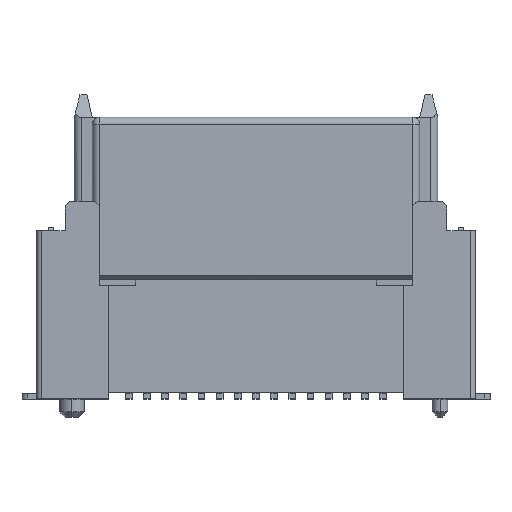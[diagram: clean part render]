
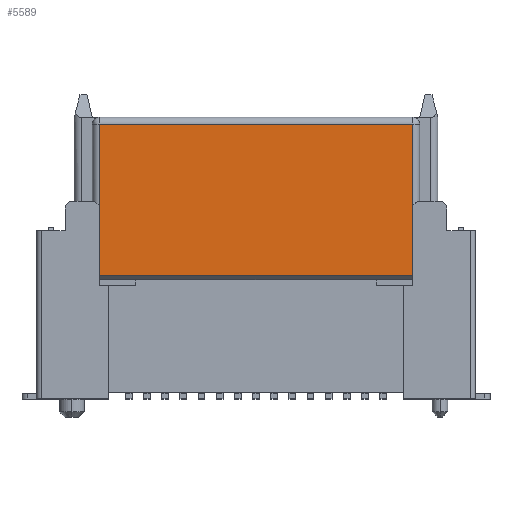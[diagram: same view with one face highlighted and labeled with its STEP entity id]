
A CAD part, top view. The second image highlights one B-rep face of the part: STEP entity #5589.
In plain terms, the highlighted planar face has unit normal (0, 0, 1).
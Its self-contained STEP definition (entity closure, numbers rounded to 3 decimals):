
#124 = EDGE_LOOP ( 'NONE', ( #4717, #20864, #11987, #11092, #15974, #9423 ) ) ;
#425 = CARTESIAN_POINT ( 'NONE',  ( 6.9, 8.5, 2.23 ) ) ;
#1595 = EDGE_CURVE ( 'NONE', #20576, #3547, #20834, .T. ) ;
#2009 = DIRECTION ( 'NONE',  ( 0., 0., -1. ) ) ;
#2795 = VECTOR ( 'NONE', #12211, 1000. ) ;
#3079 = AXIS2_PLACEMENT_3D ( 'NONE', #7136, #2009, #10785 ) ;
#3392 = VECTOR ( 'NONE', #19918, 1000. ) ;
#3547 = VERTEX_POINT ( 'NONE', #6348 ) ;
#3591 = LINE ( 'NONE', #18946, #13223 ) ;
#3866 = CARTESIAN_POINT ( 'NONE',  ( 6.9, 12.1, 2.23 ) ) ;
#3981 = EDGE_CURVE ( 'NONE', #3547, #8904, #12699, .T. ) ;
#4055 = CARTESIAN_POINT ( 'NONE',  ( -6.9, 8.7, 2.23 ) ) ;
#4108 = CARTESIAN_POINT ( 'NONE',  ( 6.9, 5.452, 2.23 ) ) ;
#4308 = EDGE_CURVE ( 'NONE', #21822, #13692, #3591, .T. ) ;
#4353 = CARTESIAN_POINT ( 'NONE',  ( -13.576, 12.1, 2.23 ) ) ;
#4717 = ORIENTED_EDGE ( 'NONE', *, *, #1595, .T. ) ;
#5589 = ADVANCED_FACE ( 'NONE', ( #15388 ), #21248, .F. ) ;
#6348 = CARTESIAN_POINT ( 'NONE',  ( -6.9, 5.452, 2.23 ) ) ;
#6449 = LINE ( 'NONE', #4353, #10344 ) ;
#7136 = CARTESIAN_POINT ( 'NONE',  ( -13.576, 8.7, 2.23 ) ) ;
#7796 = CARTESIAN_POINT ( 'NONE',  ( -6.9, 12.1, 2.23 ) ) ;
#7866 = VERTEX_POINT ( 'NONE', #7796 ) ;
#8365 = CARTESIAN_POINT ( 'NONE',  ( -6.9, 8.7, 2.23 ) ) ;
#8904 = VERTEX_POINT ( 'NONE', #4108 ) ;
#9423 = ORIENTED_EDGE ( 'NONE', *, *, #19482, .T. ) ;
#10344 = VECTOR ( 'NONE', #18515, 1000. ) ;
#10596 = DIRECTION ( 'NONE',  ( 1., 0., 0. ) ) ;
#10785 = DIRECTION ( 'NONE',  ( -1., 0., 0. ) ) ;
#11092 = ORIENTED_EDGE ( 'NONE', *, *, #4308, .T. ) ;
#11987 = ORIENTED_EDGE ( 'NONE', *, *, #22276, .T. ) ;
#12211 = DIRECTION ( 'NONE',  ( 0., 1., 0. ) ) ;
#12699 = LINE ( 'NONE', #17881, #16594 ) ;
#13083 = VECTOR ( 'NONE', #18898, 1000. ) ;
#13223 = VECTOR ( 'NONE', #19108, 1000. ) ;
#13540 = LINE ( 'NONE', #15995, #2795 ) ;
#13692 = VERTEX_POINT ( 'NONE', #3866 ) ;
#15033 = CARTESIAN_POINT ( 'NONE',  ( -6.9, 8.5, 2.23 ) ) ;
#15388 = FACE_OUTER_BOUND ( 'NONE', #124, .T. ) ;
#15974 = ORIENTED_EDGE ( 'NONE', *, *, #19363, .T. ) ;
#15995 = CARTESIAN_POINT ( 'NONE',  ( 6.9, 8.7, 2.23 ) ) ;
#16594 = VECTOR ( 'NONE', #10596, 1000. ) ;
#17542 = LINE ( 'NONE', #8365, #13083 ) ;
#17881 = CARTESIAN_POINT ( 'NONE',  ( 6.9, 5.452, 2.23 ) ) ;
#18515 = DIRECTION ( 'NONE',  ( -1., 0., 0. ) ) ;
#18898 = DIRECTION ( 'NONE',  ( 0., -1., 0. ) ) ;
#18946 = CARTESIAN_POINT ( 'NONE',  ( 6.9, 8.7, 2.23 ) ) ;
#19108 = DIRECTION ( 'NONE',  ( 0., 1., 0. ) ) ;
#19363 = EDGE_CURVE ( 'NONE', #13692, #7866, #6449, .T. ) ;
#19482 = EDGE_CURVE ( 'NONE', #7866, #20576, #17542, .T. ) ;
#19918 = DIRECTION ( 'NONE',  ( 0., -1., 0. ) ) ;
#20576 = VERTEX_POINT ( 'NONE', #15033 ) ;
#20834 = LINE ( 'NONE', #4055, #3392 ) ;
#20864 = ORIENTED_EDGE ( 'NONE', *, *, #3981, .T. ) ;
#21248 = PLANE ( 'NONE',  #3079 ) ;
#21822 = VERTEX_POINT ( 'NONE', #425 ) ;
#22276 = EDGE_CURVE ( 'NONE', #8904, #21822, #13540, .T. ) ;
